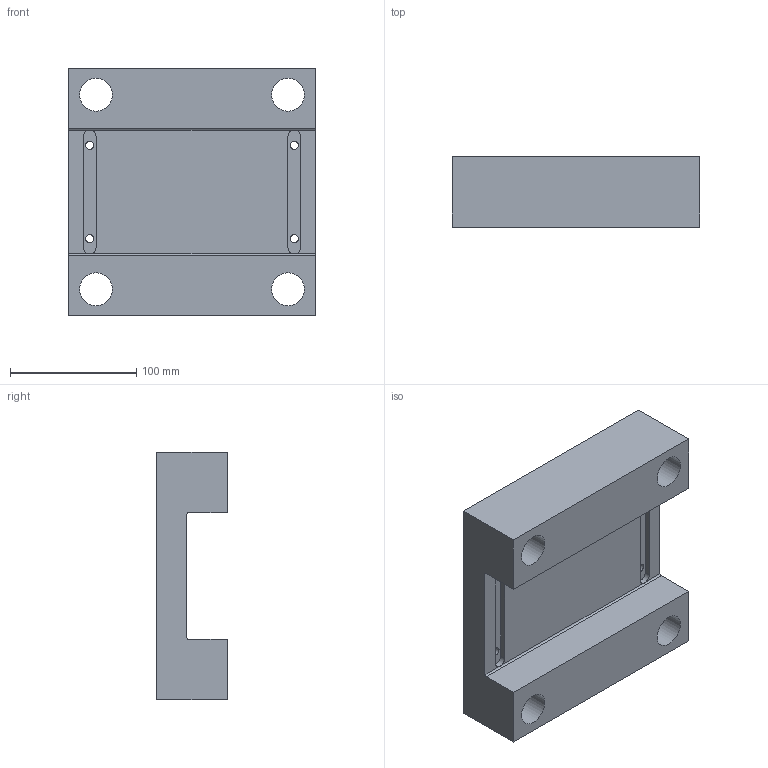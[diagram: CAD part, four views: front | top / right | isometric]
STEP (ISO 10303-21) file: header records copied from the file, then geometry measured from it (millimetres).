
FILE_DESCRIPTION(/* description */ ('STEP AP214'),/* implementation_level */ '2;1');
FILE_NAME(/* name */ 'KMR201961960562312',/* time_stamp */ '2026-06-18T16:10:35+02:00',/* author */ ('License CC BY-ND 4.0'),/* organization */ ('CADENAS'),/* preprocessor_version */ 'ST-DEVELOPER v20',/* originating_system */ 'PARTsolutions',/* authorisation */ ' ');
FILE_SCHEMA (('AUTOMOTIVE_DESIGN {1 0 10303 214 3 1 1}'));
Length unit declared in the file: millimetre
Products named in the file (1): KMR201961960562312
Bounding box: 196 x 56 x 196 mm (x, y, z)
Volume: 1379348 mm3; surface area: 147493.1 mm2
Topology: 1 solids, 1 shells, 64 faces, 150 edges, 96 vertices
Faces by surface type: plane 30, cylinder 26, cone 8
Full cylindrical faces by diameter (mm): 6.6 x4, 8.376 x4, 11 x4, 26 x4, 32 x4
Entity records: 1708 total; most frequent: DIRECTION 308, CARTESIAN_POINT 271, ORIENTED_EDGE 228, AXIS2_PLACEMENT_3D 129, FACE_BOUND 120, EDGE_LOOP 116, EDGE_CURVE 114, VERTEX_POINT 92
